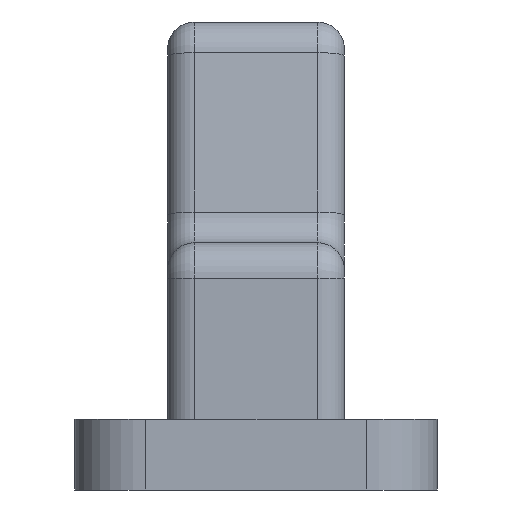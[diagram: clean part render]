
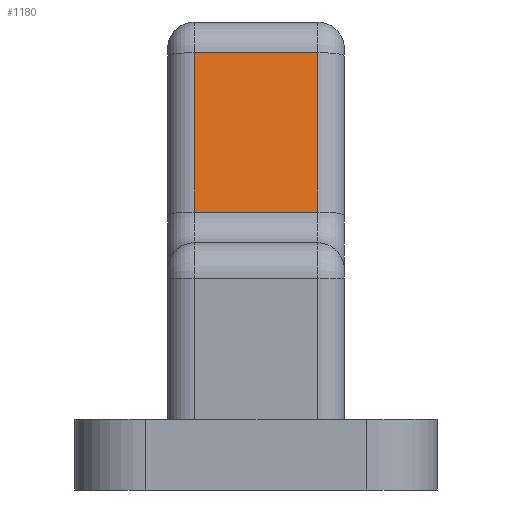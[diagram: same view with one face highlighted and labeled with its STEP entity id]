
A CAD part, front view. The second image highlights one B-rep face of the part: STEP entity #1180.
In plain terms, the highlighted planar face has unit normal (0, -0.991, 0.131).
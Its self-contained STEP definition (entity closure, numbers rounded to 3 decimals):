
#235 = LINE ( 'NONE', #3895, #4153 ) ;
#340 = CARTESIAN_POINT ( 'NONE',  ( 88.271, 172.902, 161.53 ) ) ;
#364 = DIRECTION ( 'NONE',  ( 0., -0.131, -0.991 ) ) ;
#377 = DIRECTION ( 'NONE',  ( 0., -0.991, 0.131 ) ) ;
#648 = ORIENTED_EDGE ( 'NONE', *, *, #1582, .T. ) ;
#657 = LINE ( 'NONE', #1238, #5632 ) ;
#864 = VERTEX_POINT ( 'NONE', #1934 ) ;
#1180 = ADVANCED_FACE ( 'NONE', ( #2386 ), #5770, .T. ) ;
#1238 = CARTESIAN_POINT ( 'NONE',  ( 102.271, 170.069, 140.008 ) ) ;
#1582 = EDGE_CURVE ( 'NONE', #3917, #5249, #3309, .T. ) ;
#1710 = CARTESIAN_POINT ( 'NONE',  ( 88.271, 170.527, 143.486 ) ) ;
#1725 = EDGE_LOOP ( 'NONE', ( #4746, #648, #5046, #2081 ) ) ;
#1934 = CARTESIAN_POINT ( 'NONE',  ( 102.271, 172.902, 161.53 ) ) ;
#2046 = EDGE_CURVE ( 'NONE', #864, #3917, #4963, .T. ) ;
#2081 = ORIENTED_EDGE ( 'NONE', *, *, #2840, .T. ) ;
#2386 = FACE_OUTER_BOUND ( 'NONE', #1725, .T. ) ;
#2415 = CARTESIAN_POINT ( 'NONE',  ( 102.271, 170.527, 143.486 ) ) ;
#2840 = EDGE_CURVE ( 'NONE', #5733, #864, #657, .T. ) ;
#3127 = EDGE_CURVE ( 'NONE', #5249, #5733, #235, .T. ) ;
#3261 = CARTESIAN_POINT ( 'NONE',  ( 141.763, 172.902, 161.53 ) ) ;
#3309 = LINE ( 'NONE', #5904, #3507 ) ;
#3482 = AXIS2_PLACEMENT_3D ( 'NONE', #3601, #377, #364 ) ;
#3507 = VECTOR ( 'NONE', #5105, 1000. ) ;
#3519 = DIRECTION ( 'NONE',  ( -1., 0., 0. ) ) ;
#3601 = CARTESIAN_POINT ( 'NONE',  ( 141.763, 170.069, 140.008 ) ) ;
#3895 = CARTESIAN_POINT ( 'NONE',  ( 141.763, 170.527, 143.486 ) ) ;
#3917 = VERTEX_POINT ( 'NONE', #340 ) ;
#4153 = VECTOR ( 'NONE', #5940, 1000. ) ;
#4746 = ORIENTED_EDGE ( 'NONE', *, *, #2046, .T. ) ;
#4963 = LINE ( 'NONE', #3261, #5119 ) ;
#5046 = ORIENTED_EDGE ( 'NONE', *, *, #3127, .T. ) ;
#5105 = DIRECTION ( 'NONE',  ( 0., -0.131, -0.991 ) ) ;
#5119 = VECTOR ( 'NONE', #3519, 1000. ) ;
#5249 = VERTEX_POINT ( 'NONE', #1710 ) ;
#5632 = VECTOR ( 'NONE', #5973, 1000. ) ;
#5733 = VERTEX_POINT ( 'NONE', #2415 ) ;
#5770 = PLANE ( 'NONE',  #3482 ) ;
#5904 = CARTESIAN_POINT ( 'NONE',  ( 88.271, 170.527, 143.486 ) ) ;
#5940 = DIRECTION ( 'NONE',  ( 1., 0., 0. ) ) ;
#5973 = DIRECTION ( 'NONE',  ( 0., 0.131, 0.991 ) ) ;
